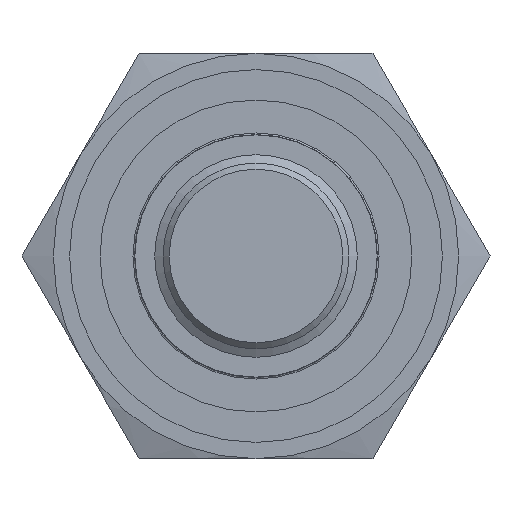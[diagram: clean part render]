
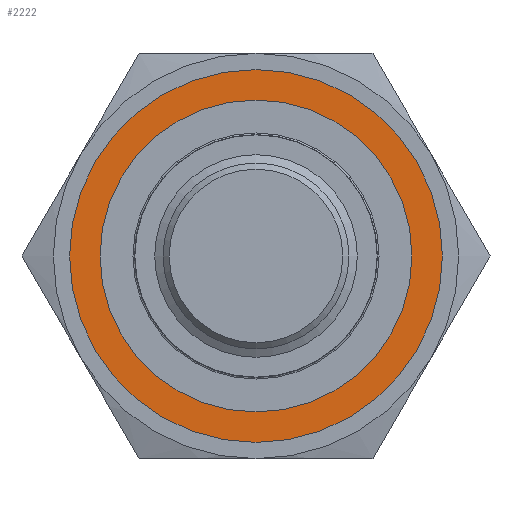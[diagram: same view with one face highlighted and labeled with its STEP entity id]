
A CAD part, left-side view. The second image highlights one B-rep face of the part: STEP entity #2222.
In plain terms, the highlighted planar face has unit normal (-1, 0, 0).
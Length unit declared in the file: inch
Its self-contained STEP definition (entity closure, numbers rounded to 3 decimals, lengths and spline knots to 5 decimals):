
#158=FACE_BOUND('',#776,.T.);
#193=PLANE('',#2523);
#590=FACE_OUTER_BOUND('',#775,.T.);
#775=EDGE_LOOP('',(#1900));
#776=EDGE_LOOP('',(#1901));
#833=CIRCLE('',#2329,0.481);
#834=CIRCLE('',#2331,0.575);
#953=VERTEX_POINT('',#3297);
#954=VERTEX_POINT('',#3301);
#1145=EDGE_CURVE('',#953,#953,#833,.T.);
#1146=EDGE_CURVE('',#954,#954,#834,.T.);
#1900=ORIENTED_EDGE('',*,*,#1146,.T.);
#1901=ORIENTED_EDGE('',*,*,#1145,.F.);
#2222=ADVANCED_FACE('',(#590,#158),#193,.T.);
#2329=AXIS2_PLACEMENT_3D('',#3299,#2694,#2695);
#2331=AXIS2_PLACEMENT_3D('',#3302,#2698,#2699);
#2523=AXIS2_PLACEMENT_3D('',#4881,#3153,#3154);
#2694=DIRECTION('center_axis',(-1.,0.,0.));
#2695=DIRECTION('ref_axis',(0.,0.,1.));
#2698=DIRECTION('center_axis',(-1.,0.,0.));
#2699=DIRECTION('ref_axis',(0.,0.,1.));
#3153=DIRECTION('center_axis',(-1.,0.,0.));
#3154=DIRECTION('ref_axis',(0.,-1.,0.));
#3297=CARTESIAN_POINT('',(6.81108,3.07474,-0.481));
#3299=CARTESIAN_POINT('Origin',(6.81108,3.07474,0.));
#3301=CARTESIAN_POINT('',(6.81108,3.07474,-0.575));
#3302=CARTESIAN_POINT('Origin',(6.81108,3.07474,0.));
#4881=CARTESIAN_POINT('Origin',(6.81108,3.07474,0.528));
